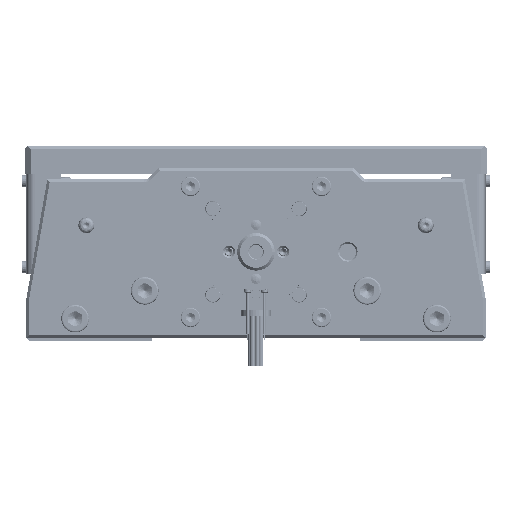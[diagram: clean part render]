
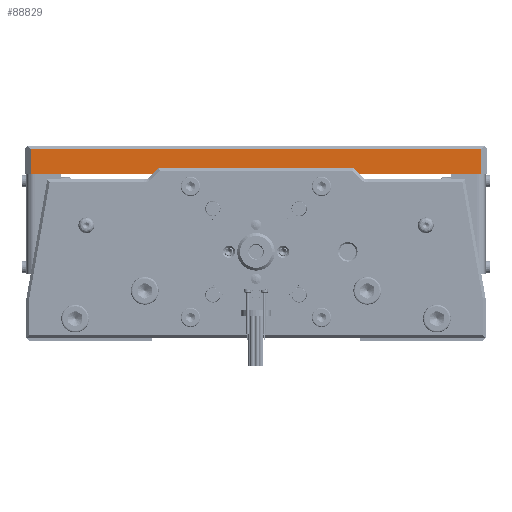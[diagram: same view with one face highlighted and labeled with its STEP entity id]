
A CAD part, front view. The second image highlights one B-rep face of the part: STEP entity #88829.
In plain terms, the highlighted planar face has unit normal (0, -1, 0).
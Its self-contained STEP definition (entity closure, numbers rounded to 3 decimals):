
#85590=CARTESIAN_POINT('',(81.,-283.,60.));
#85591=VERTEX_POINT('',#85590);
#85598=CARTESIAN_POINT('',(-81.,-283.,60.));
#85599=VERTEX_POINT('',#85598);
#85600=CARTESIAN_POINT('',(81.,-283.,60.));
#85601=DIRECTION('',(-1.0,0.0,0.0));
#85602=VECTOR('',#85601,162.);
#85603=LINE('',#85600,#85602);
#85604=EDGE_CURVE('',#85591,#85599,#85603,.T.);
#88154=CARTESIAN_POINT('',(81.,-283.,69.));
#88155=VERTEX_POINT('',#88154);
#88162=CARTESIAN_POINT('',(81.,-283.,69.));
#88163=DIRECTION('',(0.0,0.0,-1.0));
#88164=VECTOR('',#88163,9.);
#88165=LINE('',#88162,#88164);
#88166=EDGE_CURVE('',#88155,#85591,#88165,.T.);
#88796=CARTESIAN_POINT('',(-81.,-283.,69.));
#88797=VERTEX_POINT('',#88796);
#88804=CARTESIAN_POINT('',(-81.,-283.,69.));
#88805=DIRECTION('',(1.0,0.0,0.0));
#88806=VECTOR('',#88805,162.);
#88807=LINE('',#88804,#88806);
#88808=EDGE_CURVE('',#88797,#88155,#88807,.T.);
#88813=CARTESIAN_POINT('',(-83.,-283.,60.));
#88814=DIRECTION('',(0.0,-1.0,0.0));
#88815=DIRECTION('',(1.0,0.0,0.0));
#88816=AXIS2_PLACEMENT_3D('',#88813,#88814,#88815);
#88817=PLANE('',#88816);
#88818=ORIENTED_EDGE('',*,*,#88808,.F.);
#88819=CARTESIAN_POINT('',(-81.,-283.,60.));
#88820=DIRECTION('',(0.0,0.0,1.0));
#88821=VECTOR('',#88820,9.0);
#88822=LINE('',#88819,#88821);
#88823=EDGE_CURVE('',#85599,#88797,#88822,.T.);
#88824=ORIENTED_EDGE('',*,*,#88823,.F.);
#88825=ORIENTED_EDGE('',*,*,#85604,.F.);
#88826=ORIENTED_EDGE('',*,*,#88166,.F.);
#88827=EDGE_LOOP('',(#88818,#88824,#88825,#88826));
#88828=FACE_OUTER_BOUND('',#88827,.T.);
#88829=ADVANCED_FACE('',(#88828),#88817,.T.);
